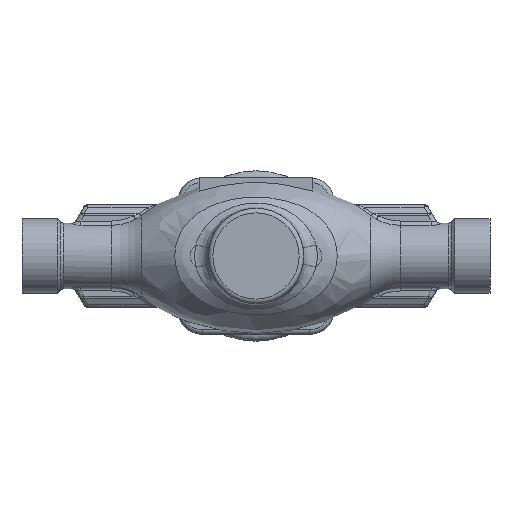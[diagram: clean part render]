
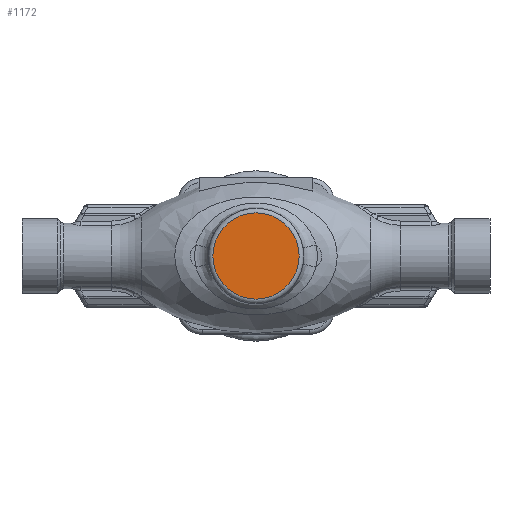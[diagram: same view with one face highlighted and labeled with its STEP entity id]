
A CAD part, front view. The second image highlights one B-rep face of the part: STEP entity #1172.
In plain terms, the highlighted planar face has unit normal (0, -1, 0).
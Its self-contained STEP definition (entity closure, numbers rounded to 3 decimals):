
#181=FACE_OUTER_BOUND('',#2440,.T.);
#1172=ADVANCED_FACE('',(#181),#1620,.F.);
#1620=PLANE('',#6870);
#2440=EDGE_LOOP('',(#3210));
#3210=ORIENTED_EDGE('',*,*,#5629,.T.);
#5031=VERTEX_POINT('',#10803);
#5629=EDGE_CURVE('',#5031,#5031,#6420,.T.);
#6420=CIRCLE('',#6869,19.);
#6869=AXIS2_PLACEMENT_3D('',#10802,#7818,#7819);
#6870=AXIS2_PLACEMENT_3D('',#10804,#7820,#7821);
#7818=DIRECTION('',(0.,-1.,0.));
#7819=DIRECTION('',(0.,0.,-1.));
#7820=DIRECTION('',(0.,1.,0.));
#7821=DIRECTION('',(0.,0.,-1.));
#10802=CARTESIAN_POINT('',(0.,-47.,0.));
#10803=CARTESIAN_POINT('',(0.,-47.,-19.));
#10804=CARTESIAN_POINT('',(0.,-47.,0.));
